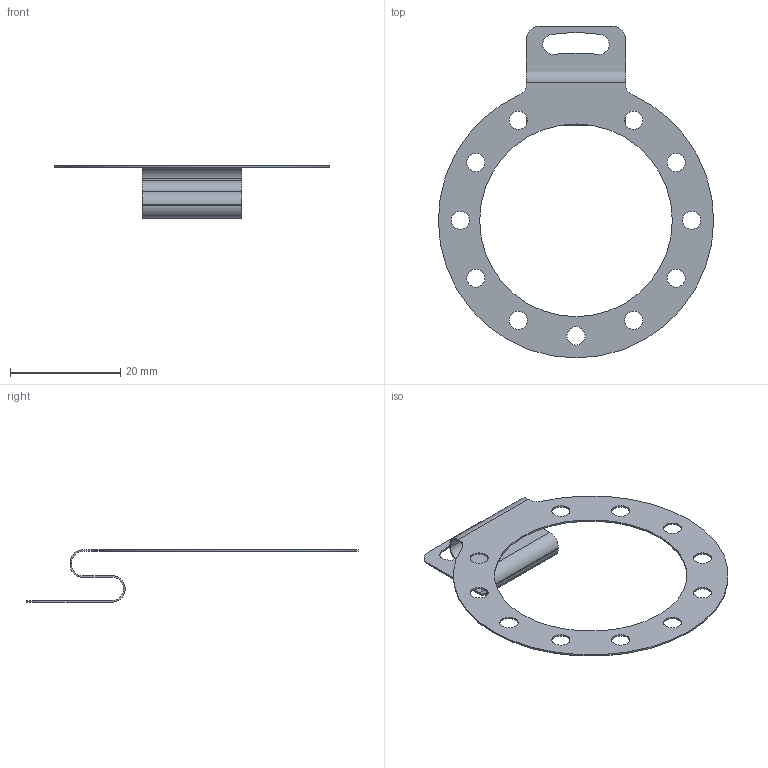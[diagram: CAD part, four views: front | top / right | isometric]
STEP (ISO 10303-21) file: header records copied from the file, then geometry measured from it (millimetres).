
FILE_DESCRIPTION (( 'STEP AP214' ), '1' );
FILE_NAME ('8.0010.40M0.0000.STEP', '2008-10-23T07:55:35', ( 'admin' ), ( 'Fritz Kübler GmbH' ), 'SwSTEP 2.0', 'SolidWorks 2008', '' );
FILE_SCHEMA (( 'AUTOMOTIVE_DESIGN' ));
Length unit declared in the file: millimetre
Products named in the file (1): 8.0010.40M0.0000
Bounding box: 50 x 60.3 x 9.5 mm (x, y, z)
Volume: 452.3 mm3; surface area: 3159.3 mm2
Topology: 1 solids, 1 shells, 57 faces, 165 edges, 110 vertices
Faces by surface type: cylinder 44, plane 13
Entity records: 2002 total; most frequent: DIRECTION 369, CARTESIAN_POINT 333, ORIENTED_EDGE 330, EDGE_CURVE 165, AXIS2_PLACEMENT_3D 146, VERTEX_POINT 110, CIRCLE 88, EDGE_LOOP 83
